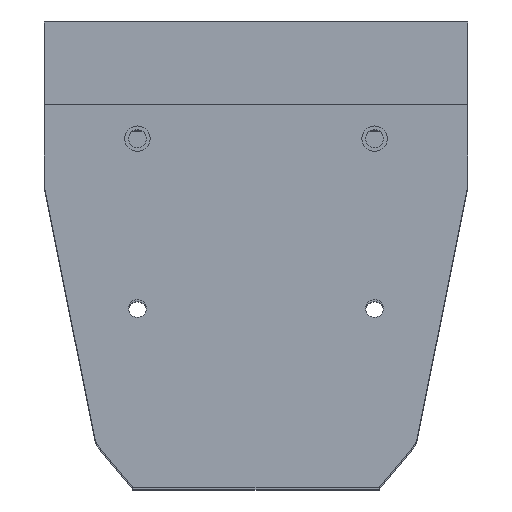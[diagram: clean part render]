
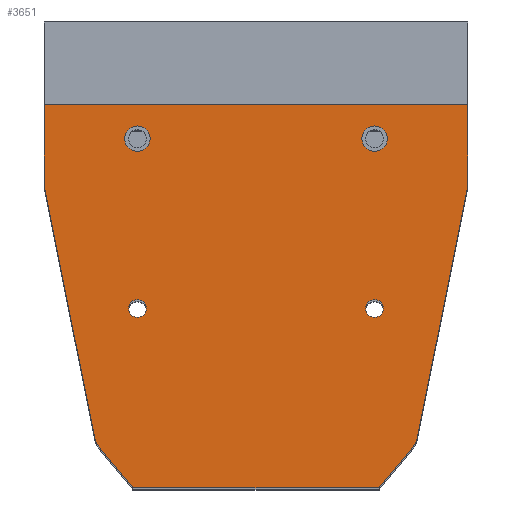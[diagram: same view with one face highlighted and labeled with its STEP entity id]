
A CAD part, top view. The second image highlights one B-rep face of the part: STEP entity #3651.
In plain terms, the highlighted planar face has unit normal (0, 0, 1).
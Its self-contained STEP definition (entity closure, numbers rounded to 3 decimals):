
#484=DIRECTION('',(0.,1.,0.));
#485=VECTOR('',#484,19.207);
#486=CARTESIAN_POINT('',(50.,-13.157,153.8));
#487=LINE('',#486,#485);
#488=DIRECTION('',(0.197,0.98,0.));
#489=VECTOR('',#488,60.756);
#490=CARTESIAN_POINT('',(38.043,-72.725,153.8));
#491=LINE('',#490,#489);
#492=CARTESIAN_POINT('',(33.373,-71.788,153.8));
#493=DIRECTION('',(0.,0.,1.));
#494=DIRECTION('',(0.767,-0.641,0.));
#495=AXIS2_PLACEMENT_3D('',#492,#493,#494);
#497=DIRECTION('',(0.641,0.767,0.));
#498=VECTOR('',#497,12.42);
#499=CARTESIAN_POINT('',(29.065,-84.373,153.8));
#500=LINE('',#499,#498);
#501=DIRECTION('',(1.,0.,0.));
#502=VECTOR('',#501,58.129);
#503=CARTESIAN_POINT('',(-29.065,-84.373,153.8));
#504=LINE('',#503,#502);
#505=DIRECTION('',(0.641,-0.767,0.));
#506=VECTOR('',#505,12.42);
#507=CARTESIAN_POINT('',(-37.028,-74.842,153.8));
#508=LINE('',#507,#506);
#509=CARTESIAN_POINT('',(-33.373,-71.788,153.8));
#510=DIRECTION('',(0.,0.,1.));
#511=DIRECTION('',(-0.98,-0.197,0.));
#512=AXIS2_PLACEMENT_3D('',#509,#510,#511);
#514=DIRECTION('',(0.197,-0.98,0.));
#515=VECTOR('',#514,60.756);
#516=CARTESIAN_POINT('',(-50.,-13.157,153.8));
#517=LINE('',#516,#515);
#518=DIRECTION('',(0.,-1.,0.));
#519=VECTOR('',#518,19.207);
#520=CARTESIAN_POINT('',(-50.,6.05,153.8));
#521=LINE('',#520,#519);
#522=DIRECTION('',(-1.,0.,0.));
#523=VECTOR('',#522,100.);
#524=CARTESIAN_POINT('',(50.,6.05,153.8));
#525=LINE('',#524,#523);
#526=CARTESIAN_POINT('',(-28.,-1.95,153.8));
#527=DIRECTION('',(0.,0.,1.));
#528=DIRECTION('',(-1.,0.,0.));
#529=AXIS2_PLACEMENT_3D('',#526,#527,#528);
#531=CARTESIAN_POINT('',(-28.,-1.95,153.8));
#532=DIRECTION('',(0.,0.,1.));
#533=DIRECTION('',(1.,0.,0.));
#534=AXIS2_PLACEMENT_3D('',#531,#532,#533);
#536=CARTESIAN_POINT('',(28.,-1.95,153.8));
#537=DIRECTION('',(0.,0.,1.));
#538=DIRECTION('',(-1.,0.,0.));
#539=AXIS2_PLACEMENT_3D('',#536,#537,#538);
#541=CARTESIAN_POINT('',(28.,-1.95,153.8));
#542=DIRECTION('',(0.,0.,1.));
#543=DIRECTION('',(1.,0.,0.));
#544=AXIS2_PLACEMENT_3D('',#541,#542,#543);
#546=CARTESIAN_POINT('',(-28.,-42.05,153.8));
#547=DIRECTION('',(0.,0.,1.));
#548=DIRECTION('',(-1.,0.,0.));
#549=AXIS2_PLACEMENT_3D('',#546,#547,#548);
#551=CARTESIAN_POINT('',(-28.,-42.05,153.8));
#552=DIRECTION('',(0.,0.,1.));
#553=DIRECTION('',(1.,0.,0.));
#554=AXIS2_PLACEMENT_3D('',#551,#552,#553);
#556=CARTESIAN_POINT('',(28.,-42.05,153.8));
#557=DIRECTION('',(0.,0.,1.));
#558=DIRECTION('',(-1.,0.,0.));
#559=AXIS2_PLACEMENT_3D('',#556,#557,#558);
#561=CARTESIAN_POINT('',(28.,-42.05,153.8));
#562=DIRECTION('',(0.,0.,1.));
#563=DIRECTION('',(1.,0.,0.));
#564=AXIS2_PLACEMENT_3D('',#561,#562,#563);
#2634=CARTESIAN_POINT('',(50.,-13.157,153.8));
#2635=CARTESIAN_POINT('',(50.,6.05,153.8));
#2636=VERTEX_POINT('',#2634);
#2637=VERTEX_POINT('',#2635);
#2638=CARTESIAN_POINT('',(-50.,6.05,153.8));
#2639=VERTEX_POINT('',#2638);
#2640=CARTESIAN_POINT('',(-50.,-13.157,153.8));
#2641=VERTEX_POINT('',#2640);
#2642=CARTESIAN_POINT('',(-38.043,-72.725,153.8));
#2643=VERTEX_POINT('',#2642);
#2644=CARTESIAN_POINT('',(-37.028,-74.842,153.8));
#2645=VERTEX_POINT('',#2644);
#2646=CARTESIAN_POINT('',(-29.065,-84.373,153.8));
#2647=VERTEX_POINT('',#2646);
#2648=CARTESIAN_POINT('',(29.065,-84.373,153.8));
#2649=VERTEX_POINT('',#2648);
#2650=CARTESIAN_POINT('',(37.028,-74.842,153.8));
#2651=VERTEX_POINT('',#2650);
#2652=CARTESIAN_POINT('',(38.043,-72.725,153.8));
#2653=VERTEX_POINT('',#2652);
#2712=CARTESIAN_POINT('',(-31.,-1.95,153.8));
#2713=VERTEX_POINT('',#2712);
#2716=CARTESIAN_POINT('',(-25.,-1.95,153.8));
#2717=VERTEX_POINT('',#2716);
#2744=CARTESIAN_POINT('',(25.,-1.95,153.8));
#2745=VERTEX_POINT('',#2744);
#2748=CARTESIAN_POINT('',(31.,-1.95,153.8));
#2749=VERTEX_POINT('',#2748);
#2766=CARTESIAN_POINT('',(-30.1,-42.05,153.8));
#2767=CARTESIAN_POINT('',(-25.9,-42.05,153.8));
#2768=VERTEX_POINT('',#2766);
#2769=VERTEX_POINT('',#2767);
#2770=CARTESIAN_POINT('',(25.9,-42.05,153.8));
#2771=CARTESIAN_POINT('',(30.1,-42.05,153.8));
#2772=VERTEX_POINT('',#2770);
#2773=VERTEX_POINT('',#2771);
#3610=CARTESIAN_POINT('',(-50.,-1.95,153.8));
#3611=DIRECTION('',(0.,0.,1.));
#3612=DIRECTION('',(1.,0.,0.));
#3613=AXIS2_PLACEMENT_3D('',#3610,#3611,#3612);
#3614=PLANE('',#3613);
#3615=ORIENTED_EDGE('',*,*,#3136,.F.);
#3616=ORIENTED_EDGE('',*,*,#3119,.F.);
#3617=ORIENTED_EDGE('',*,*,#3104,.F.);
#3618=ORIENTED_EDGE('',*,*,#3089,.F.);
#3619=ORIENTED_EDGE('',*,*,#3074,.F.);
#3620=ORIENTED_EDGE('',*,*,#3059,.F.);
#3621=ORIENTED_EDGE('',*,*,#3044,.F.);
#3622=ORIENTED_EDGE('',*,*,#3029,.F.);
#3623=ORIENTED_EDGE('',*,*,#3014,.F.);
#3625=ORIENTED_EDGE('',*,*,#3624,.F.);
#3626=EDGE_LOOP('',(#3615,#3616,#3617,#3618,#3619,#3620,#3621,#3622,#3623,
#3625));
#3627=FACE_OUTER_BOUND('',#3626,.F.);
#3629=ORIENTED_EDGE('',*,*,#3628,.T.);
#3631=ORIENTED_EDGE('',*,*,#3630,.T.);
#3632=EDGE_LOOP('',(#3629,#3631));
#3633=FACE_BOUND('',#3632,.F.);
#3635=ORIENTED_EDGE('',*,*,#3634,.T.);
#3637=ORIENTED_EDGE('',*,*,#3636,.T.);
#3638=EDGE_LOOP('',(#3635,#3637));
#3639=FACE_BOUND('',#3638,.F.);
#3640=ORIENTED_EDGE('',*,*,#3600,.T.);
#3642=ORIENTED_EDGE('',*,*,#3641,.T.);
#3643=EDGE_LOOP('',(#3640,#3642));
#3644=FACE_BOUND('',#3643,.F.);
#3646=ORIENTED_EDGE('',*,*,#3645,.T.);
#3648=ORIENTED_EDGE('',*,*,#3647,.T.);
#3649=EDGE_LOOP('',(#3646,#3648));
#3650=FACE_BOUND('',#3649,.F.);
#3651=ADVANCED_FACE('',(#3627,#3633,#3639,#3644,#3650),#3614,.T.);
#496=CIRCLE('',#495,4.763);
#513=CIRCLE('',#512,4.763);
#530=CIRCLE('',#529,3.);
#535=CIRCLE('',#534,3.);
#540=CIRCLE('',#539,3.);
#545=CIRCLE('',#544,3.);
#550=CIRCLE('',#549,2.1);
#555=CIRCLE('',#554,2.1);
#560=CIRCLE('',#559,2.1);
#565=CIRCLE('',#564,2.1);
#3014=EDGE_CURVE('',#2639,#2641,#521,.T.);
#3029=EDGE_CURVE('',#2641,#2643,#517,.T.);
#3044=EDGE_CURVE('',#2643,#2645,#513,.T.);
#3059=EDGE_CURVE('',#2645,#2647,#508,.T.);
#3074=EDGE_CURVE('',#2647,#2649,#504,.T.);
#3089=EDGE_CURVE('',#2649,#2651,#500,.T.);
#3104=EDGE_CURVE('',#2651,#2653,#496,.T.);
#3119=EDGE_CURVE('',#2653,#2636,#491,.T.);
#3136=EDGE_CURVE('',#2636,#2637,#487,.T.);
#3600=EDGE_CURVE('',#2768,#2769,#550,.T.);
#3624=EDGE_CURVE('',#2637,#2639,#525,.T.);
#3628=EDGE_CURVE('',#2713,#2717,#530,.T.);
#3630=EDGE_CURVE('',#2717,#2713,#535,.T.);
#3634=EDGE_CURVE('',#2745,#2749,#540,.T.);
#3636=EDGE_CURVE('',#2749,#2745,#545,.T.);
#3641=EDGE_CURVE('',#2769,#2768,#555,.T.);
#3645=EDGE_CURVE('',#2772,#2773,#560,.T.);
#3647=EDGE_CURVE('',#2773,#2772,#565,.T.);
